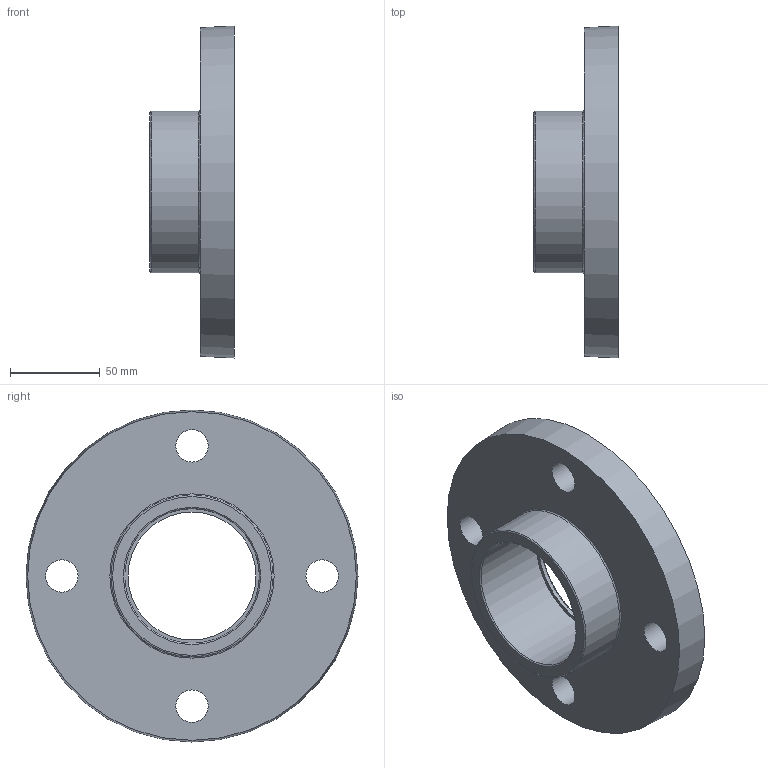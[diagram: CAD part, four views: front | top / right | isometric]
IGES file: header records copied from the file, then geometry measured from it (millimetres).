
Global section: file name: 059100075.ipt; native system: Autodesk Inventor 2015; preprocessor: unknown; author: KIM; date: 20171207.170001; units: millimetre
Bounding box: 47 x 185 x 185 mm (x, y, z)
Volume: 457764.8 mm3; surface area: 77692.5 mm2
Topology: 1 solids, 1 shells, 28 faces, 62 edges, 44 vertices
Faces by surface type: revolution 13, plane 10, cylinder 4, cone 1
Full cylindrical faces by diameter (mm): 74.6 x1, 78.3 x1, 82 x1, 90 x1
